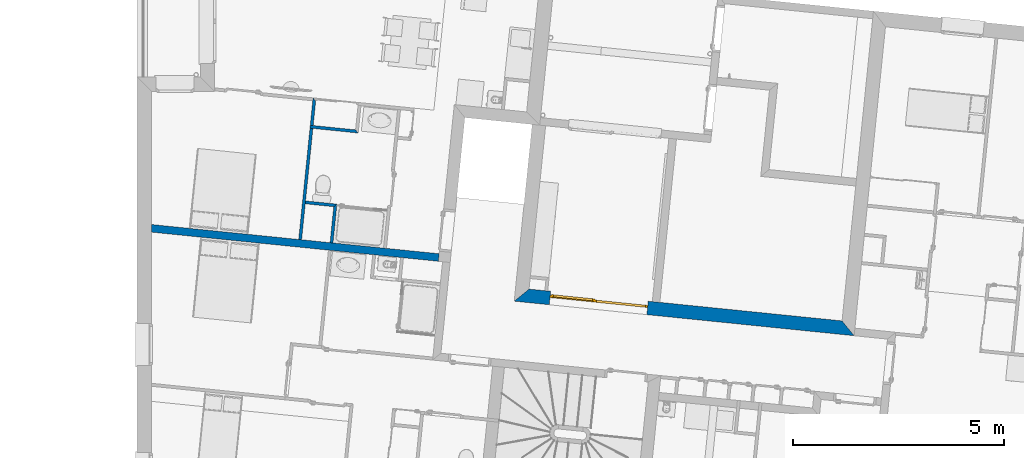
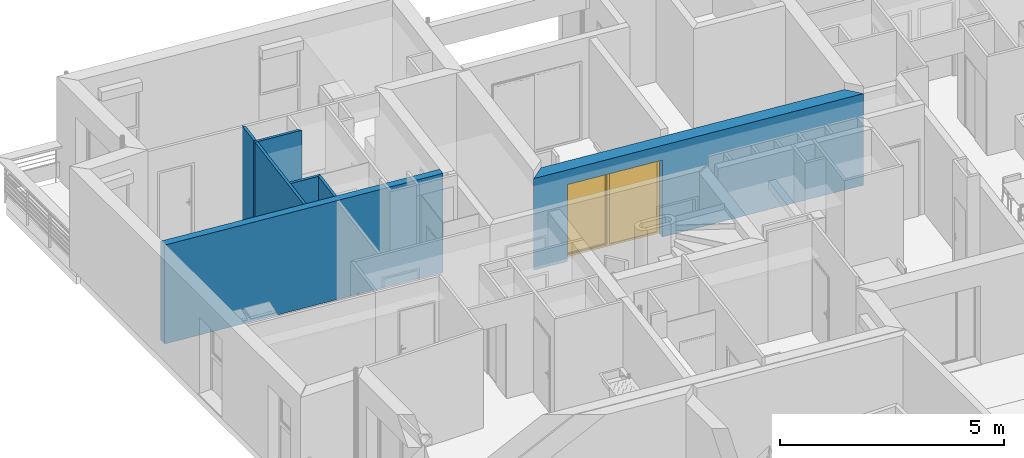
# One storey, part 66 of 171: 6 walls, 1 window, 1 opening.
"""IFC2X3 building model written with IfcOpenShell, lengths in millimetres."""

import ifcopenshell
import ifcopenshell.guid

model = None  # the IFC model being written
_history = None  # IfcOwnerHistory: only IFC2X3 demands one
_inside = {}  # id of a spatial element -> (the spatial element, [elements in it])
_under = {}  # id of a project, library or spatial element -> (it, [spatial elements below it])
_declared = {}  # id of a project -> (the project, [libraries it declares])
_typed = {}  # id of a type object -> (the type object, [elements of that type])
_made_of = {}  # id of a material, layer set ... -> (it, [elements and type objects made of it])


def new_model(schema):
    """Start an empty IFC model of exactly this schema.

    Asked for "IFC4X3", IfcOpenShell would pick the latest addendum, in which some entities
    have other attributes; the version numbers below select the first issue.
    IFC2X3 requires an IfcOwnerHistory on every rooted entity: one is made here for all.
    """
    global model, _history
    if schema == "IFC4X3":
        model = ifcopenshell.file(schema_version=(4, 3, 0, 0))
    else:
        model = ifcopenshell.file(schema=schema)
    _inside.clear()
    _under.clear()
    _declared.clear()
    _typed.clear()
    _made_of.clear()
    _history = None
    if model.schema == "IFC2X3":
        org = make("IfcOrganization", Name="unknown")
        user = make(
            "IfcPersonAndOrganization",
            ThePerson=make("IfcPerson", FamilyName="unknown"),
            TheOrganization=org,
        )
        app = make(
            "IfcApplication",
            ApplicationDeveloper=org,
            Version="unknown",
            ApplicationFullName="unknown",
            ApplicationIdentifier="unknown",
        )
        _history = make(
            "IfcOwnerHistory",
            OwningUser=user,
            OwningApplication=app,
            ChangeAction="ADDED",
            CreationDate=0,
        )
    return model


def make(cls, **values):
    """One entity of the class cls with the attributes given. An attribute that is None is left unset."""
    return model.create_entity(
        cls, **{name: value for name, value in values.items() if value is not None}
    )


def entity(cls, *values):
    """Any entity or typed value of the class cls, its attributes in the order of the schema. None: left unset."""
    e = model.create_entity(cls)
    for i, value in enumerate(values):
        if value is not None:
            e[i] = value
    return e


def rooted(cls, **values):
    """An entity with a GlobalId (a new one), such as an element, a storey or a relation."""
    return make(cls, GlobalId=ifcopenshell.guid.new(), OwnerHistory=_history, **values)


def si_unit(unit_type, name, prefix=None):
    """IfcSIUnit, for example si_unit("LENGTHUNIT", "METRE", prefix="MILLI")."""
    return make("IfcSIUnit", UnitType=unit_type, Prefix=prefix, Name=name)


def converted_unit(unit_type, name, factor, base, dimensions=None, offset=None):
    """IfcConversionBasedUnit, such as the inch: factor (a typed value) times the base unit."""
    return make(
        "IfcConversionBasedUnit"
        if offset is None
        else "IfcConversionBasedUnitWithOffset",
        ConversionOffset=offset,
        Dimensions=None
        if dimensions is None
        else entity("IfcDimensionalExponents", *dimensions),
        UnitType=unit_type,
        Name=name,
        ConversionFactor=make(
            "IfcMeasureWithUnit", ValueComponent=factor, UnitComponent=base
        ),
    )


def derived_unit(unit_type, elements):
    """IfcDerivedUnit: a product of units, each with its exponent."""
    return make(
        "IfcDerivedUnit",
        Elements=[
            make("IfcDerivedUnitElement", Unit=unit, Exponent=power)
            for unit, power in elements
        ],
        UnitType=unit_type,
    )


def money_unit(currency):
    """IfcMonetaryUnit."""
    return make("IfcMonetaryUnit", Currency=currency)


def assignment(units):
    """IfcUnitAssignment: the units of a project."""
    return None if units is None else make("IfcUnitAssignment", Units=units)


def point(xyz):
    """IfcCartesianPoint."""
    return None if xyz is None else make("IfcCartesianPoint", Coordinates=xyz)


def direction(xyz):
    """IfcDirection."""
    return None if xyz is None else make("IfcDirection", DirectionRatios=xyz)


def frame(location, z_axis=None, x_axis=None):
    """IfcAxis2Placement3D, a coordinate frame: its origin and axes. An axis left out is left unset."""
    return make(
        "IfcAxis2Placement3D",
        Location=point(location),
        Axis=direction(z_axis),
        RefDirection=direction(x_axis),
    )


def frame_2d(location, x_axis=None):
    """IfcAxis2Placement2D, a coordinate frame in the plane: its origin and x axis."""
    return make(
        "IfcAxis2Placement2D", Location=point(location), RefDirection=direction(x_axis)
    )


def origin_with_axes():
    """The frame at (0, 0, 0) with the z axis (0, 0, 1) and the x axis (1, 0, 0) written out."""
    return frame((0.0, 0.0, 0.0), z_axis=(0.0, 0.0, 1.0), x_axis=(1.0, 0.0, 0.0))


def origin_2d_with_axis():
    """The frame at (0, 0) in the plane with the x axis (1, 0) written out."""
    return frame_2d((0.0, 0.0), x_axis=(1.0, 0.0))


def place(relative_to, where):
    """IfcLocalPlacement: puts the frame where relative to a parent placement (None: the world)."""
    return make(
        "IfcLocalPlacement", PlacementRelTo=relative_to, RelativePlacement=where
    )


def context(
    kind, dimensions, precision=None, world=None, true_north=None, identifier=None
):
    """IfcGeometricRepresentationContext, for example the 3D "Model" context."""
    return make(
        "IfcGeometricRepresentationContext",
        ContextIdentifier=identifier,
        ContextType=kind,
        CoordinateSpaceDimension=dimensions,
        Precision=precision,
        WorldCoordinateSystem=world,
        TrueNorth=true_north,
    )


def subcontext(parent, identifier, kind, view, scale=None):
    """IfcGeometricRepresentationSubContext, for example "Body" below "Model"."""
    return make(
        "IfcGeometricRepresentationSubContext",
        ContextIdentifier=identifier,
        ContextType=kind,
        ParentContext=parent,
        TargetScale=scale,
        TargetView=view,
    )


def project(units=None, contexts=None):
    """IfcProject with its units and contexts."""
    return rooted(
        "IfcProject",
        Name="project",
        RepresentationContexts=contexts,
        UnitsInContext=assignment(units),
    )


def spatial(cls, under=None, at=None, **own):
    """A site, building, storey or space (cls), placed at a placement, below another one or the project."""
    s = rooted(cls, ObjectPlacement=at, **own)
    if under is not None:
        _under.setdefault(under.id(), (under, []))[1].append(s)
    return s


def polyline(points):
    """IfcPolyline through the points."""
    return make("IfcPolyline", Points=[point(p) for p in points])


def profile(cls, at=None, kind="AREA", **sizes):
    """A parametric profile (cls). Its sizes go by their IFC names, for example OverallWidth=200.0."""
    return make(cls, ProfileType=kind, Position=at, **sizes)


def rectangle(**sizes):
    """IfcRectangleProfileDef."""
    return profile("IfcRectangleProfileDef", **sizes)


def outline(outer, holes=None, kind="AREA"):
    """IfcArbitraryClosedProfileDef: a profile drawn as a closed curve; with holes, ...WithVoids."""
    if holes is None:
        return make("IfcArbitraryClosedProfileDef", ProfileType=kind, OuterCurve=outer)
    return make(
        "IfcArbitraryProfileDefWithVoids",
        ProfileType=kind,
        OuterCurve=outer,
        InnerCurves=holes,
    )


def extrude(swept, where, along, depth):
    """IfcExtrudedAreaSolid: the profile swept, set in the frame where, extruded along a direction by depth."""
    return make(
        "IfcExtrudedAreaSolid",
        SweptArea=swept,
        Position=where,
        ExtrudedDirection=direction(along),
        Depth=depth,
    )


def faces_of(points, faces, orient=None, outer=None):
    """IfcFace entities. A face is a list of loops; a loop is a list of indices into points, from 0.

    orient and outer hold one flag for each loop. By default every Orientation is true, the
    first loop of a face is its IfcFaceOuterBound and the others are IfcFaceBound.
    """
    made = []
    for i, loops in enumerate(faces):
        bounds = []
        for j, loop in enumerate(loops):
            is_outer = j == 0 if outer is None else outer[i][j]
            bounds.append(
                make(
                    "IfcFaceOuterBound" if is_outer else "IfcFaceBound",
                    Bound=make("IfcPolyLoop", Polygon=[points[k] for k in loop]),
                    Orientation=True if orient is None else orient[i][j],
                )
            )
        made.append(make("IfcFace", Bounds=bounds))
    return made


def open_shell(faces, orient=None, outer=None):
    """The faces of one IfcOpenShell. surface_model builds it on its shared points."""
    return ("IfcOpenShell", faces, orient, outer)


def faceted_brep(points, faces, orient=None, outer=None, voids=None):
    """IfcFacetedBrep: a solid bounded by flat faces; with voids (closed shells), ...WithVoids."""
    shared = [point(p) for p in points]
    hull = make("IfcClosedShell", CfsFaces=faces_of(shared, faces, orient, outer))
    if voids is None:
        return make("IfcFacetedBrep", Outer=hull)
    return make(
        "IfcFacetedBrepWithVoids",
        Outer=hull,
        Voids=[
            make(cls, CfsFaces=faces_of(shared, fs, o, b)) for cls, fs, o, b in voids
        ],
    )


def surface_model(cls, points, shells):
    """IfcFaceBasedSurfaceModel or IfcShellBasedSurfaceModel (cls): surfaces that need not close."""
    shared = [point(p) for p in points]
    made = [make(c, CfsFaces=faces_of(shared, fs, o, b)) for c, fs, o, b in shells]
    if cls == "IfcFaceBasedSurfaceModel":
        return make(cls, FbsmFaces=made)
    return make(cls, SbsmBoundary=made)


def shape(context_of_items, identifier, shape_type, items):
    """IfcShapeRepresentation: the items that make up one representation, for example the "Body"."""
    return make(
        "IfcShapeRepresentation",
        ContextOfItems=context_of_items,
        RepresentationIdentifier=identifier,
        RepresentationType=shape_type,
        Items=items,
    )


def source(mapping_origin, context_of_items, identifier, shape_type, items):
    """IfcRepresentationMap: a shape defined once, which mapped items show again and again."""
    return make(
        "IfcRepresentationMap",
        MappingOrigin=mapping_origin,
        MappedRepresentation=shape(context_of_items, identifier, shape_type, items),
    )


def transform(
    local_origin,
    x_axis=None,
    y_axis=None,
    z_axis=None,
    scale=None,
    scale2=None,
    scale3=None,
    uniform=True,
):
    """IfcCartesianTransformationOperator3D, or its non-uniform kind. x_axis, y_axis, z_axis: its Axis1, 2, 3."""
    if uniform:
        return make(
            "IfcCartesianTransformationOperator3D",
            Axis1=direction(x_axis),
            Axis2=direction(y_axis),
            LocalOrigin=point(local_origin),
            Scale=scale,
            Axis3=direction(z_axis),
        )
    return make(
        "IfcCartesianTransformationOperator3DnonUniform",
        Axis1=direction(x_axis),
        Axis2=direction(y_axis),
        LocalOrigin=point(local_origin),
        Scale=scale,
        Axis3=direction(z_axis),
        Scale2=scale2,
        Scale3=scale3,
    )


def mapped(mapping_source, mapping_target):
    """IfcMappedItem: shows the shape of a source again, moved by a transform."""
    return make(
        "IfcMappedItem", MappingSource=mapping_source, MappingTarget=mapping_target
    )


def material(Name=None, Category=None):
    """IfcMaterial."""
    return make("IfcMaterial", Name=Name, Category=Category)


def layer(
    of_material, thickness, ventilated=None, Name=None, Category=None, Priority=None
):
    """IfcMaterialLayer: one layer of a wall or slab, of a material (None: an air gap)."""
    return make(
        "IfcMaterialLayer",
        Material=of_material,
        LayerThickness=thickness,
        IsVentilated=ventilated,
        Name=Name,
        Category=Category,
        Priority=Priority,
    )


def layer_set(layers, Name=None):
    """IfcMaterialLayerSet."""
    return make("IfcMaterialLayerSet", MaterialLayers=layers, LayerSetName=Name)


def layer_usage(for_layer_set, set_direction, sense, offset, extent=None):
    """IfcMaterialLayerSetUsage: how a layer set lies in its element."""
    return make(
        "IfcMaterialLayerSetUsage",
        ForLayerSet=for_layer_set,
        LayerSetDirection=set_direction,
        DirectionSense=sense,
        OffsetFromReferenceLine=offset,
        ReferenceExtent=extent,
    )


def made_of(thing, what):
    """Note that an element or type object is made of a material, layer set ...; save() writes the relation."""
    if what is not None:
        _made_of.setdefault(what.id(), (what, []))[1].append(thing)
    return thing


def type_object(cls, material=None, **own):
    """A type object (cls), such as IfcWallType, which elements share."""
    return made_of(rooted(cls, **own), material)


def element(
    cls,
    number,
    at=None,
    inside=None,
    cuts=None,
    type_object=None,
    material=None,
    context=None,
    identifier="Body",
    shape_type=None,
    held_by="IfcProductDefinitionShape",
    body=None,
    shapes=None,
    **own,
):
    """One element of the class cls, such as IfcWall. Its Tag is "e" and its number.

    at: its placement. inside: the storey or other place that contains it. cuts: it is an
    opening in that element (IfcRelVoidsElement). A single representation is given by context,
    identifier, shape_type and body (its items); several are given by shapes. held_by: the class
    of the entity that holds the representations. save() writes the other relations.
    """
    e = rooted(cls, Tag="e%d" % number, ObjectPlacement=at, **own)
    if body is not None:
        shapes = [shape(context, identifier, shape_type, body)]
    if shapes is not None:
        e.Representation = make(held_by, Representations=shapes)
    if inside is not None:
        _inside.setdefault(inside.id(), (inside, []))[1].append(e)
    if cuts is not None:
        rooted(
            "IfcRelVoidsElement", RelatingBuildingElement=cuts, RelatedOpeningElement=e
        )
    if type_object is not None:
        _typed.setdefault(type_object.id(), (type_object, []))[1].append(e)
    return made_of(e, material)


def fill(opening, filler):
    """IfcRelFillsElement: the door or window that sits in an opening."""
    return rooted(
        "IfcRelFillsElement",
        RelatingOpeningElement=opening,
        RelatedBuildingElement=filler,
    )


def aggregate(whole, parts):
    """IfcRelAggregates: a whole, such as a stair, and the parts it consists of."""
    return rooted("IfcRelAggregates", RelatingObject=whole, RelatedObjects=parts)


def save(model, path):
    """Write the relations noted so far, then the file.

    IfcRelAggregates (storeys below a building ...), IfcRelContainedInSpatialStructure (elements
    in a storey), IfcRelDefinesByType, IfcRelAssociatesMaterial and IfcRelDeclares: one each for
    every whole, place, type object, material and project.
    """
    for whole, parts in _under.values():
        aggregate(whole, parts)
    for where, things in _inside.values():
        rooted(
            "IfcRelContainedInSpatialStructure",
            RelatedElements=things,
            RelatingStructure=where,
        )
    for kind, things in _typed.values():
        rooted("IfcRelDefinesByType", RelatedObjects=things, RelatingType=kind)
    for what, things in _made_of.values():
        rooted("IfcRelAssociatesMaterial", RelatedObjects=things, RelatingMaterial=what)
    for by, libraries in _declared.values():
        rooted("IfcRelDeclares", RelatingContext=by, RelatedDefinitions=libraries)
    model.write(path)


model = new_model("IFC2X3")

# Units and contexts
model_context = context("Model", 3, precision=0.01, world=origin_with_axes(), true_north=direction((0.0, 1.0)))
body_context = subcontext(model_context, "Body", "Model", "MODEL_VIEW")
ifc_project = project(units=[si_unit("LENGTHUNIT", "METRE", prefix="MILLI"), si_unit("AREAUNIT", "SQUARE_METRE"), si_unit("VOLUMEUNIT", "CUBIC_METRE"), converted_unit("PLANEANGLEUNIT", "DEGREE", entity("IfcPlaneAngleMeasure", 0.0174532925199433), si_unit("PLANEANGLEUNIT", "RADIAN"), dimensions=[0, 0, 0, 0, 0, 0, 0]), money_unit("USD"), converted_unit("TIMEUNIT", "Year", entity("IfcTimeMeasure", 31557600.0), si_unit("TIMEUNIT", "SECOND"), dimensions=[0, 0, 1, 0, 0, 0, 0]), si_unit("MASSUNIT", "GRAM", prefix="KILO"), si_unit("THERMODYNAMICTEMPERATUREUNIT", "DEGREE_CELSIUS"), si_unit("LUMINOUSINTENSITYUNIT", "LUMEN"), si_unit("ENERGYUNIT", "JOULE", prefix="MEGA"), derived_unit("THERMALCONDUCTANCEUNIT", [(si_unit("POWERUNIT", "WATT"), 1), (si_unit("LENGTHUNIT", "METRE"), -1), (si_unit("THERMODYNAMICTEMPERATUREUNIT", "KELVIN"), -1)]), derived_unit("SPECIFICHEATCAPACITYUNIT", [(si_unit("ENERGYUNIT", "JOULE"), 1), (si_unit("MASSUNIT", "GRAM", prefix="KILO"), -1), (si_unit("THERMODYNAMICTEMPERATUREUNIT", "KELVIN"), -1)]), derived_unit("MASSDENSITYUNIT", [(si_unit("MASSUNIT", "GRAM", prefix="KILO"), 1), (si_unit("VOLUMEUNIT", "CUBIC_METRE"), -1)])], contexts=[model_context])

# Site, building, storey
site_placement = place(None, origin_with_axes())
site = spatial("IfcSite", under=ifc_project, at=site_placement, Name="Site", CompositionType="ELEMENT")
building_placement = place(site_placement, origin_with_axes())
building = spatial("IfcBuilding", under=site, at=building_placement, Name="Bâtiment", CompositionType="ELEMENT")
storey_placement = place(building_placement, frame((0.0, 0.0, 3000.0), z_axis=(0.0, 0.0, 1.0), x_axis=(1.0, 0.0, 0.0)))
storey = spatial("IfcBuildingStorey", under=building, at=storey_placement, Name="rdc", CompositionType="ELEMENT", Elevation=3000.0)

# Walls
ifc_material_1 = material(Name="Parpaing 314940890")
ifc_layer_1 = layer(ifc_material_1, 180.0, ventilated="UNKNOWN")
ifc_layer_set_1 = layer_set([ifc_layer_1], Name="Beton  18 0018356637")
ifc_layer_usage_1 = layer_usage(ifc_layer_set_1, "AXIS2", "NEGATIVE", 0.0)
wall_type_1 = type_object("IfcWallType", Name="Beton  18 0018356637 180", PredefinedType="NOTDEFINED")
wall_1_placement = place(storey_placement, frame((2224041.596288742, -611556.7271089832, 0.0), z_axis=(0.0, 0.0, 1.0), x_axis=(-0.9948759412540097, 0.1011032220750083, 0.0)))
element("IfcWallStandardCase", 1, at=wall_1_placement, inside=storey, type_object=wall_type_1, material=ifc_layer_usage_1, Name="Mur-143", context=body_context, shape_type="SweptSolid", body=[
    extrude(outline(polyline([(280.0000000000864, -179.9999999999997), (7122.055353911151, -179.9999999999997), (7103.763043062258, 0.0), (280.0000000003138, 0.0), (280.0000000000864, -179.9999999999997)])), origin_with_axes(), (0.0, 0.0, 1.0), 2700.0),
])
ifc_material_2 = material(Name="Hachure solide 268963992")
ifc_layer_2 = layer(ifc_material_2, 70.0, ventilated="UNKNOWN")
ifc_layer_set_2 = layer_set([ifc_layer_2], Name="Cloison 70 0826278243")
ifc_layer_usage_2 = layer_usage(ifc_layer_set_2, "AXIS2", "NEGATIVE", 70.0)
wall_type_2 = type_object("IfcWallType", Name="Cloison 70 0826278243 70", PredefinedType="NOTDEFINED")
wall_2_placement = place(storey_placement, frame((2221365.053645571, -610175.0682552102, 0.0), z_axis=(0.0, 0.0, 1.0), x_axis=(-0.9948707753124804, 0.1011540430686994, 0.0)))
element("IfcWallStandardCase", 2, at=wall_2_placement, inside=storey, type_object=wall_type_2, material=ifc_layer_usage_2, Name="Mur-149", context=body_context, shape_type="SweptSolid", body=[
    extrude(outline(polyline([(-2.273736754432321e-10, 0.0), (746.4356865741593, 0.0), (746.4244933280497, 70.00000000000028), (69.98952239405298, 69.99999999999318), (-2.273736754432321e-10, 0.0)])), origin_with_axes(), (0.0, 0.0, 1.0), 2700.0),
])
ifc_layer_usage_3 = layer_usage(ifc_layer_set_2, "AXIS2", "NEGATIVE", 70.0)
wall_3_placement = place(storey_placement, frame((2221271.723977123, -611094.352081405, 0.0), z_axis=(0.0, 0.0, 1.0), x_axis=(0.1010051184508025, 0.9948859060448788, 0.0)))
element("IfcWallStandardCase", 3, at=wall_3_placement, inside=storey, type_object=wall_type_2, material=ifc_layer_usage_3, Name="Mur-149", context=body_context, shape_type="SweptSolid", body=[
    extrude(outline(polyline([(0.0, 0.0), (924.0092965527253, 1.13686837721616e-10), (854.0197741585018, 70.00000000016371), (0.0, 70.00000000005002), (0.0, 0.0)])), origin_with_axes(), (0.0, 0.0, 1.0), 2700.0),
])
ifc_layer_usage_4 = layer_usage(ifc_layer_set_2, "AXIS2", "NEGATIVE", 70.0)
wall_4_placement = place(storey_placement, frame((2220799.415976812, -607663.1592158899, 0.0), z_axis=(0.0, 0.0, 1.0), x_axis=(-0.1009949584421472, -0.9948869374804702, 0.0)))
element("IfcWallStandardCase", 4, at=wall_4_placement, inside=storey, type_object=wall_type_2, material=ifc_layer_usage_4, Name="Mur-149", context=body_context, shape_type="SweptSolid", body=[
    extrude(outline(polyline([(0.0, 0.0), (3365.822166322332, 0.0), (3365.829783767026, 69.99999999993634), (70.00761785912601, 69.99999999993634), (0.0, 0.0)])), origin_with_axes(), (0.0, 0.0, 1.0), 2700.0),
])
ifc_layer_usage_5 = layer_usage(ifc_layer_set_2, "AXIS2", "POSITIVE", -70.0)
wall_5_placement = place(storey_placement, frame((2220733.698882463, -608309.828577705, 0.0), z_axis=(0.0, 0.0, 1.0), x_axis=(0.9948759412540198, -0.1011032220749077, 0.0)))
element("IfcWallStandardCase", 5, at=wall_5_placement, inside=storey, type_object=wall_type_2, material=ifc_layer_usage_5, Name="Mur-149", context=body_context, shape_type="SweptSolid", body=[
    extrude(outline(polyline([(0.0, -69.99999999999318), (1146.811835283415, -69.99999999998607), (1076.811835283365, 0.0), (0.0, 0.0), (0.0, -69.99999999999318)])), origin_with_axes(), (0.0, 0.0, 1.0), 2700.0),
])

# Wall, opening, window
ifc_material_3 = material(Name="Parpaing 312445824")
ifc_layer_3 = layer(ifc_material_3, 180.0, ventilated="UNKNOWN")
ifc_material_4 = material(Name="Isolant styromousse 301821074")
ifc_layer_4 = layer(ifc_material_4, 140.0, ventilated="UNKNOWN")
ifc_layer_set_3 = layer_set([ifc_layer_3, ifc_layer_4], Name="isol int 18+14")
ifc_layer_usage_6 = layer_usage(ifc_layer_set_3, "AXIS2", "POSITIVE", 0.0)
wall_type_3 = type_object("IfcWallType", Name="isol int 18+14 320", PredefinedType="NOTDEFINED")
wall_6_placement = place(storey_placement, frame((2225556.896998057, -612471.2755072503, 0.0), z_axis=(0.0, 0.0, 1.0), x_axis=(0.9948759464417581, -0.1011031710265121, 0.0)))
wall_6 = element("IfcWallStandardCase", 6, at=wall_6_placement, inside=storey, type_object=wall_type_3, material=ifc_layer_usage_6, Name="Mur-143", context=body_context, shape_type="SweptSolid", body=[
    extrude(outline(polyline([(-9.235350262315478e-06, 0.0), (8080.819018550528, 0.0), (7760.735138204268, 320.0000000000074), (320.0000109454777, 320.0000000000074), (-9.235350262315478e-06, 0.0)])), origin_with_axes(), (0.0, 0.0, 1.0), 2500.0),
])
opening_placement = place(wall_6_placement, frame((1993.849878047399, 0.0, 0.0), z_axis=(0.0, 0.0, 1.0), x_axis=(1.0, 0.0, 0.0)))
opening = element("IfcOpeningElement", 7, at=opening_placement, cuts=wall_6, Name="Fen-155", context=body_context, shape_type="SweptSolid", body=[
    extrude(rectangle(XDim=2319.870471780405, YDim=2100.0, at=origin_2d_with_axis()), frame((0.0, 220.000000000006, 1050.0), z_axis=(0.0, 1.0, 0.0), x_axis=(1.0, 0.0, 0.0)), (0.0, 0.0, -1.0), 540.0),
    extrude(rectangle(XDim=2319.870471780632, YDim=2100.0, at=origin_2d_with_axis()), frame((0.0, 220.000000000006, 1050.0), z_axis=(0.0, -1.0, 0.0), x_axis=(1.0, 0.0, 0.0)), (0.0, 0.0, -1.0), 420.0000000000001),
])
window_style = type_object("IfcWindowStyle", Name="Fenêtre variable 27", ConstructionType="NOTDEFINED", OperationType="DOUBLE_PANEL_VERTICAL", ParameterTakesPrecedence=False, Sizeable=False)
shared_shape = source(origin_with_axes(), body_context, "Body", "SurfaceModel", [
    faceted_brep([(-1134.935235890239, 0.0, 2050.0), (-1159.935235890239, 0.0, 2050.0), (-1159.935235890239, -50.00000000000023, 2050.0), (-1109.935235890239, -50.00000000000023, 2050.0), (-1109.935235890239, -25.00000000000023, 2050.0), (-1134.935235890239, -25.00000000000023, 2050.0), (-1134.935235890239, 0.0, 50.00000000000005), (-1159.935235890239, 0.0, 50.00000000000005), (-1159.935235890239, -49.99999999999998, 50.00000000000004), (-1109.935235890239, -49.99999999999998, 50.00000000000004), (-1109.935235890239, -24.99999999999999, 50.00000000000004), (-1134.935235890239, -24.99999999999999, 50.00000000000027)], [[[0, 1, 2, 3, 4, 5]], [[6, 7, 1, 0]], [[1, 7, 8, 2]], [[2, 8, 9, 3]], [[4, 3, 9, 10]], [[10, 11, 5, 4]], [[5, 11, 6, 0]], [[11, 10, 9, 8, 7, 6]]]),
    faceted_brep([(-126.1820345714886, -25.00000000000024, 2050.0), (-126.1820345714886, -50.00000000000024, 2050.0), (-56.18203457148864, -50.00000000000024, 2050.0), (-56.18203457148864, 0.0, 2050.0), (-101.1820345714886, 0.0, 2050.0), (-101.1820345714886, -25.00000000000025, 2050.0), (-126.1820345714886, -25.0, 50.00000000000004), (-126.1820345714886, -49.99999999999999, 50.00000000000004), (-56.18203457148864, -49.99999999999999, 50.00000000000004), (-56.18203457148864, 0.0, 50.00000000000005), (-101.1820345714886, 0.0, 50.00000000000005), (-101.1820345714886, -25.0, 50.00000000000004)], [[[0, 1, 2, 3, 4, 5]], [[6, 7, 1, 0]], [[8, 2, 1, 7]], [[9, 3, 2, 8]], [[4, 3, 9, 10]], [[10, 11, 5, 4]], [[5, 11, 6, 0]], [[11, 10, 9, 8, 7, 6]]]),
    faceted_brep([(-126.1820345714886, -25.0, 50.00000000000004), (-126.1820345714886, -49.99999999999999, 50.00000000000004), (-56.18203457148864, -49.99999999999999, 50.00000000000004), (-56.18203457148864, 0.0, 50.00000000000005), (-101.1820345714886, 0.0, 50.00000000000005), (-101.1820345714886, -25.0, 50.00000000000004), (-1109.935235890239, -24.99999999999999, 50.00000000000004), (-1109.935235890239, -49.99999999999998, 50.00000000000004), (-1159.935235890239, -49.99999999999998, 50.00000000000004), (-1159.935235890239, -49.99999999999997, 0.0), (1159.935235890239, -50.0, 0.0), (1159.935235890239, -50.00000000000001, 50.00000000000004), (1109.935235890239, -50.00000000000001, 50.00000000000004), (1109.935235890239, 0.0, 50.00000000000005), (-1134.935235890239, 0.0, 24.99999999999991), (-101.1820345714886, 0.0, 24.99999999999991), (1159.935235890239, 0.0, 50.00000000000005), (1159.935235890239, 0.0, 0.0), (-1159.935235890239, 0.0, 0.0), (-1159.935235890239, 0.0, 50.00000000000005), (-1134.935235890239, 0.0, 50.00000000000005), (-101.1820345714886, -25.0, 24.99999999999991), (-1134.935235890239, -24.99999999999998, 24.99999999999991), (-1134.935235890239, -24.99999999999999, 50.00000000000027)], [[[0, 1, 2, 3, 4, 5]], [[6, 7, 1, 0]], [[8, 9, 10, 11, 12, 2, 1, 7]], [[13, 3, 2, 12]], [[14, 15, 4, 3, 13, 16, 17, 18, 19, 20]], [[15, 21, 5, 4]], [[5, 21, 22, 23, 6, 0]], [[23, 20, 19, 8, 7, 6]], [[19, 18, 9, 8]], [[18, 17, 10, 9]], [[17, 16, 11, 10]], [[16, 13, 12, 11]], [[14, 22, 21, 15]], [[23, 22, 14, 20]]]),
    faceted_brep([(-1134.935235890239, 0.0, 2050.0), (-1159.935235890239, 0.0, 2050.0), (-1159.935235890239, 0.0, 2100.0), (1159.935235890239, 0.0, 2100.0), (1159.935235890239, 0.0, 2050.0), (1109.935235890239, 0.0, 2050.0), (-56.18203457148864, 0.0, 2050.0), (-101.1820345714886, 0.0, 2050.0), (-101.1820345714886, 0.0, 2075.0), (-1134.935235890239, 0.0, 2075.0), (-1134.935235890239, -25.00000000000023, 2050.0), (-1109.935235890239, -25.00000000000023, 2050.0), (-1109.935235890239, -50.00000000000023, 2050.0), (-1159.935235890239, -50.00000000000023, 2050.0), (-1159.935235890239, -50.00000000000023, 2100.0), (1159.935235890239, -50.00000000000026, 2100.0), (1159.935235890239, -50.00000000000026, 2050.0), (1109.935235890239, -50.00000000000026, 2050.0), (-56.18203457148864, -50.00000000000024, 2050.0), (-101.1820345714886, -25.00000000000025, 2050.0), (-126.1820345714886, -50.00000000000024, 2050.0), (-126.1820345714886, -25.00000000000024, 2050.0), (-101.1820345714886, -25.00000000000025, 2075.0), (-1134.935235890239, -25.00000000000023, 2075.0)], [[[0, 1, 2, 3, 4, 5, 6, 7, 8, 9]], [[10, 11, 12, 13, 1, 0]], [[2, 1, 13, 14]], [[3, 2, 14, 15]], [[4, 3, 15, 16]], [[5, 4, 16, 17]], [[6, 5, 17, 18]], [[19, 7, 6, 18, 20, 21]], [[7, 19, 22, 8]], [[8, 22, 23, 9]], [[9, 23, 10, 0]], [[21, 11, 10, 23, 22, 19]], [[21, 20, 12, 11]], [[18, 17, 16, 15, 14, 13, 12, 20]]]),
    faceted_brep([(1109.935235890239, -50.00000000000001, 50.0), (1109.935235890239, 0.0, 50.00000000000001), (1159.935235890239, 0.0, 50.00000000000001), (1159.935235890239, -50.00000000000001, 50.0), (1109.935235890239, -50.00000000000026, 2050.0), (1109.935235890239, 0.0, 2050.0), (1159.935235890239, 0.0, 2050.0), (1159.935235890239, -50.00000000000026, 2050.0)], [[[0, 1, 2, 3]], [[4, 5, 1, 0]], [[1, 5, 6, 2]], [[3, 2, 6, 7]], [[0, 3, 7, 4]], [[7, 6, 5, 4]]]),
    faceted_brep([(-1084.935235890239, -25.0000000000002, 2025.0), (-1084.935235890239, 24.99999999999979, 2025.0), (-1134.935235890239, 24.9999999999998, 2025.0), (-1134.935235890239, -25.00000000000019, 2025.0), (-1084.935235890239, -24.99999999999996, 75.00000000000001), (-1084.935235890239, 25.00000000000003, 75.00000000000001), (-1134.935235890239, 25.00000000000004, 75.00000000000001), (-1134.935235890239, -24.99999999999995, 75.00000000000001)], [[[0, 1, 2, 3]], [[4, 5, 1, 0]], [[1, 5, 6, 2]], [[3, 2, 6, 7]], [[0, 3, 7, 4]], [[7, 6, 5, 4]]]),
    faceted_brep([(-151.1820345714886, -25.00000000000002, 75.00000000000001), (-151.1820345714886, 24.99999999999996, 75.00000000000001), (-101.1820345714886, 24.99999999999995, 75.00000000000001), (-101.1820345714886, -25.00000000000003, 75.00000000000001), (-151.1820345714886, -25.00000000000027, 2025.0), (-151.1820345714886, 24.99999999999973, 2025.0), (-101.1820345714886, 24.99999999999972, 2025.0), (-101.1820345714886, -25.00000000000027, 2025.0)], [[[0, 1, 2, 3]], [[4, 5, 1, 0]], [[1, 5, 6, 2]], [[3, 2, 6, 7]], [[0, 3, 7, 4]], [[7, 6, 5, 4]]]),
    faceted_brep([(-101.1820345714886, -25.00000000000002, 25.0), (-101.1820345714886, 24.99999999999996, 25.00000000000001), (-101.1820345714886, 24.99999999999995, 75.00000000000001), (-101.1820345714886, -25.00000000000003, 75.00000000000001), (-1134.935235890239, -24.99999999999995, 25.0), (-1134.935235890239, 25.00000000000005, 25.00000000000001), (-1134.935235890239, 25.00000000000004, 75.00000000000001), (-1084.935235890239, 25.00000000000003, 75.00000000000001), (-151.1820345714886, 24.99999999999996, 75.00000000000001), (-151.1820345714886, -25.00000000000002, 75.00000000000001), (-1084.935235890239, -24.99999999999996, 75.00000000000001), (-1134.935235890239, -24.99999999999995, 75.00000000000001)], [[[0, 1, 2, 3]], [[4, 5, 1, 0]], [[1, 5, 6, 7, 8, 2]], [[3, 2, 8, 9]], [[0, 3, 9, 10, 11, 4]], [[11, 6, 5, 4]], [[10, 7, 6, 11]], [[9, 8, 7, 10]]]),
    faceted_brep([(-1134.935235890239, -25.0000000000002, 2075.0), (-1134.935235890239, 24.9999999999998, 2075.0), (-1134.935235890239, 24.9999999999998, 2025.0), (-1134.935235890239, -25.00000000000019, 2025.0), (-101.1820345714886, -25.00000000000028, 2075.0), (-101.1820345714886, 24.99999999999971, 2075.0), (-101.1820345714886, 24.99999999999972, 2025.0), (-151.1820345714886, 24.99999999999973, 2025.0), (-1084.935235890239, 24.99999999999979, 2025.0), (-1084.935235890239, -25.0000000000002, 2025.0), (-151.1820345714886, -25.00000000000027, 2025.0), (-101.1820345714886, -25.00000000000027, 2025.0)], [[[0, 1, 2, 3]], [[4, 5, 1, 0]], [[1, 5, 6, 7, 8, 2]], [[3, 2, 8, 9]], [[0, 3, 9, 10, 11, 4]], [[11, 6, 5, 4]], [[10, 7, 6, 11]], [[9, 8, 7, 10]]]),
    surface_model("IfcShellBasedSurfaceModel", [(-1084.935235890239, -9.99999999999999, 75.00000000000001), (-151.1820345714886, -10.0, 75.00000000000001), (-151.1820345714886, -10.00000000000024, 2025.0), (-1084.935235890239, -10.00000000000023, 2025.0)], [open_shell([[[0, 1, 2, 3]]])]),
    surface_model("IfcShellBasedSurfaceModel", [(-1084.935235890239, 10.00000000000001, 75.00000000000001), (-1084.935235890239, 9.999999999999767, 2025.0), (-151.1820345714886, 9.999999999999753, 2025.0), (-151.1820345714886, 9.999999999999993, 75.00000000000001)], [open_shell([[[0, 1, 2, 3]]])]),
    surface_model("IfcShellBasedSurfaceModel", [(-56.18203457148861, -34.99999999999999, 49.99999999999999), (1109.935235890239, -35.00000000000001, 49.99999999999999), (1109.935235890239, -35.00000000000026, 2050.0), (-56.18203457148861, -35.00000000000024, 2050.0)], [open_shell([[[0, 1, 2, 3]]])]),
    surface_model("IfcShellBasedSurfaceModel", [(-56.18203457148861, -15.0, 49.99999999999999), (-56.18203457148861, -15.00000000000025, 2050.0), (1109.935235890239, -15.00000000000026, 2050.0), (1109.935235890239, -15.00000000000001, 49.99999999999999)], [open_shell([[[0, 1, 2, 3]]])]),
])
window_placement = place(opening_placement, frame((-1159.935235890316, 0.0, 0.0), z_axis=(0.0, 0.0, 1.0), x_axis=(1.0, 0.0, 0.0)))
window = element("IfcWindow", 8, at=window_placement, inside=storey, type_object=window_style, Name="Fen-155", OverallHeight=2100.0, OverallWidth=2319.87, context=body_context, shape_type="MappedRepresentation", body=[
    mapped(shared_shape, transform((1159.935235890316, 220.0000000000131, 0.0))),
])
fill(opening, window)

save(model, "model.ifc")
